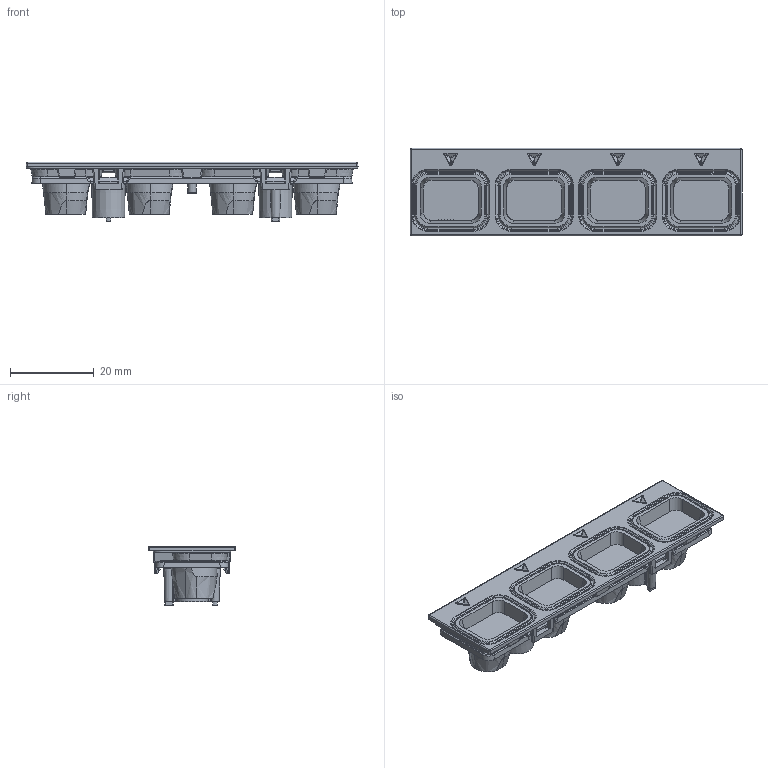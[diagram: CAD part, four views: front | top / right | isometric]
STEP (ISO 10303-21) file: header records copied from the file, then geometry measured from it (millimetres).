
FILE_DESCRIPTION(('STEP AP214'),'1');
FILE_NAME('ANDROMINI_ASTW-Mechanic.stp','2025-11-04T07:32:19',(' '),(' '),'Spatial InterOp 3D',' ',' ');
FILE_SCHEMA(('AUTOMOTIVE_DESIGN { 1 0 10303 214 1 1 1 1 }'));
Length unit declared in the file: metre
Products named in the file (3): 1762241038; 1762243383; 1
Bounding box: 79.5 x 21 x 14.32 mm (x, y, z)
Volume: 7393.3 mm3; surface area: 8574.1 mm2
Topology: 2 solids, 2 shells, 1066 faces, 2759 edges, 1668 vertices
Faces by surface type: cylinder 365, plane 320, bspline 124, torus 102, cone 66, sphere 54, extrusion 35
Entity records: 52241 total; most frequent: CARTESIAN_POINT 18898, ORIENTED_EDGE 5330, DIRECTION 4972, EDGE_CURVE 2665, AXIS2_PLACEMENT_3D 1866, VERTEX_POINT 1652, VECTOR 1240, LINE 1205
